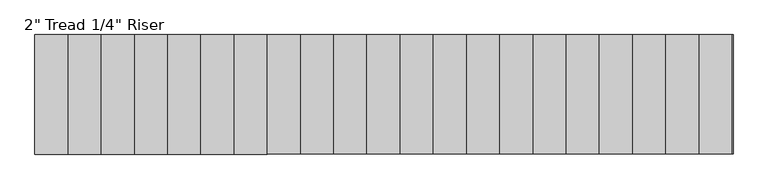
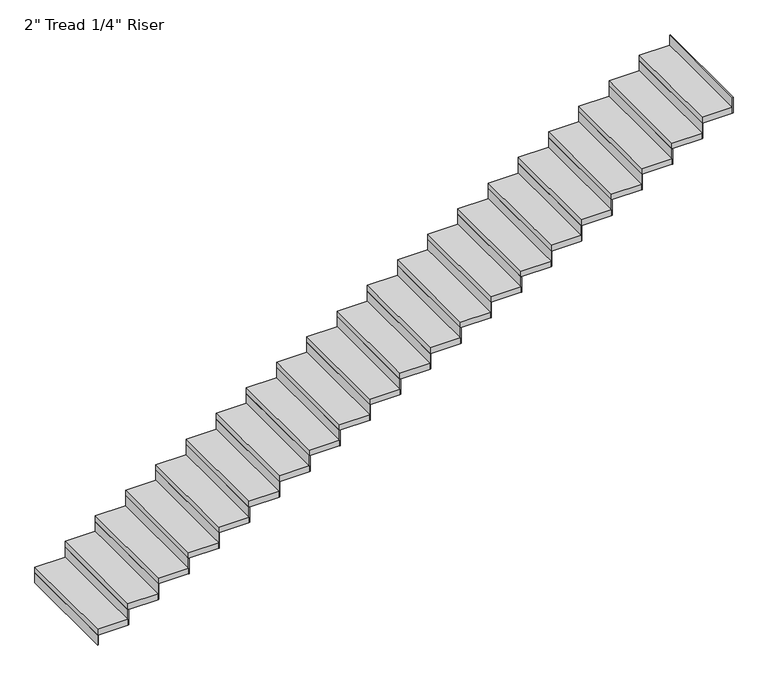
"""IFC4 building model written with IfcOpenShell, lengths in millimetres: stair flight geometry."""

from ifc_helpers import new_model, si_unit, frame, origin, origin_with_axes, place, context, project, spatial, polyline, outline, extrude, source, transform, mapped, element, save


def stair_flight_880be68a(model_context):
    return source(origin(), model_context, "Body", "SweptSolid", [
        extrude(outline(polyline([(-14491.7664794, -35593.481782), (-14498.1164794, -35593.481782), (-14498.1164794, -34679.081782), (-14491.7664794, -34679.081782), (-14491.7664794, -35593.481782)])), origin_with_axes(), (0.0, 0.0, 1.0), 87.7454545),
        extrude(outline(polyline([(-14244.1164794, -34679.081782), (-14244.1164794, -35593.481782), (-14498.1164794, -35593.481782), (-14498.1164794, -34679.081782), (-14244.1164794, -34679.081782)])), frame((0.0, 0.0, 87.7454545), z_axis=(0.0, 0.0, 1.0), x_axis=(1.0, 0.0, 0.0)), (0.0, 0.0, 1.0), 50.8),
        extrude(outline(polyline([(-14237.7664794, -35593.481782), (-14244.1164794, -35593.481782), (-14244.1164794, -34679.081782), (-14237.7664794, -34679.081782), (-14237.7664794, -35593.481782)])), frame((0.0, 0.0, 87.7454545), z_axis=(0.0, 0.0, 1.0), x_axis=(1.0, 0.0, 0.0)), (0.0, 0.0, 1.0), 138.5454545),
        extrude(outline(polyline([(-13990.1164794, -34679.081782), (-13990.1164794, -35593.481782), (-14244.1164794, -35593.481782), (-14244.1164794, -34679.081782), (-13990.1164794, -34679.081782)])), frame((0.0, 0.0, 226.2909091), z_axis=(0.0, 0.0, 1.0), x_axis=(1.0, 0.0, 0.0)), (0.0, 0.0, 1.0), 50.8),
        extrude(outline(polyline([(-13983.7664794, -35593.481782), (-13990.1164794, -35593.481782), (-13990.1164794, -34679.081782), (-13983.7664794, -34679.081782), (-13983.7664794, -35593.481782)])), frame((0.0, 0.0, 226.2909091), z_axis=(0.0, 0.0, 1.0), x_axis=(1.0, 0.0, 0.0)), (0.0, 0.0, 1.0), 138.5454545),
        extrude(outline(polyline([(-13736.1164794, -34679.081782), (-13736.1164794, -35593.481782), (-13990.1164794, -35593.481782), (-13990.1164794, -34679.081782), (-13736.1164794, -34679.081782)])), frame((0.0, 0.0, 364.8363636), z_axis=(0.0, 0.0, 1.0), x_axis=(1.0, 0.0, 0.0)), (0.0, 0.0, 1.0), 50.8),
        extrude(outline(polyline([(-13729.7664794, -35593.481782), (-13736.1164794, -35593.481782), (-13736.1164794, -34679.081782), (-13729.7664794, -34679.081782), (-13729.7664794, -35593.481782)])), frame((0.0, 0.0, 364.8363636), z_axis=(0.0, 0.0, 1.0), x_axis=(1.0, 0.0, 0.0)), (0.0, 0.0, 1.0), 138.5454545),
        extrude(outline(polyline([(-13482.1164794, -34679.081782), (-13482.1164794, -35593.481782), (-13736.1164794, -35593.481782), (-13736.1164794, -34679.081782), (-13482.1164794, -34679.081782)])), frame((0.0, 0.0, 503.3818182), z_axis=(0.0, 0.0, 1.0), x_axis=(1.0, 0.0, 0.0)), (0.0, 0.0, 1.0), 50.8),
        extrude(outline(polyline([(-13475.7664794, -35593.481782), (-13482.1164794, -35593.481782), (-13482.1164794, -34679.081782), (-13475.7664794, -34679.081782), (-13475.7664794, -35593.481782)])), frame((0.0, 0.0, 503.3818182), z_axis=(0.0, 0.0, 1.0), x_axis=(1.0, 0.0, 0.0)), (0.0, 0.0, 1.0), 138.5454545),
        extrude(outline(polyline([(-13228.1164794, -34679.081782), (-13228.1164794, -35593.481782), (-13482.1164794, -35593.481782), (-13482.1164794, -34679.081782), (-13228.1164794, -34679.081782)])), frame((0.0, 0.0, 641.9272727), z_axis=(0.0, 0.0, 1.0), x_axis=(1.0, 0.0, 0.0)), (0.0, 0.0, 1.0), 50.8),
        extrude(outline(polyline([(-13221.7664794, -35593.481782), (-13228.1164794, -35593.481782), (-13228.1164794, -34679.081782), (-13221.7664794, -34679.081782), (-13221.7664794, -35593.481782)])), frame((0.0, 0.0, 641.9272727), z_axis=(0.0, 0.0, 1.0), x_axis=(1.0, 0.0, 0.0)), (0.0, 0.0, 1.0), 138.5454545),
        extrude(outline(polyline([(-12974.1164794, -34679.081782), (-12974.1164794, -35593.481782), (-13228.1164794, -35593.481782), (-13228.1164794, -34679.081782), (-12974.1164794, -34679.081782)])), frame((0.0, 0.0, 780.4727273), z_axis=(0.0, 0.0, 1.0), x_axis=(1.0, 0.0, 0.0)), (0.0, 0.0, 1.0), 50.8),
        extrude(outline(polyline([(-12967.7664794, -35593.481782), (-12974.1164794, -35593.481782), (-12974.1164794, -34679.081782), (-12967.7664794, -34679.081782), (-12967.7664794, -35593.481782)])), frame((0.0, 0.0, 780.4727273), z_axis=(0.0, 0.0, 1.0), x_axis=(1.0, 0.0, 0.0)), (0.0, 0.0, 1.0), 138.5454545),
        extrude(outline(polyline([(-12720.1164794, -34679.081782), (-12720.1164794, -35593.481782), (-12974.1164794, -35593.481782), (-12974.1164794, -34679.081782), (-12720.1164794, -34679.081782)])), frame((0.0, 0.0, 919.0181818), z_axis=(0.0, 0.0, 1.0), x_axis=(1.0, 0.0, 0.0)), (0.0, 0.0, 1.0), 50.8),
        extrude(outline(polyline([(-12713.7664794, -35593.481782), (-12720.1164794, -35593.481782), (-12720.1164794, -34679.081782), (-12713.7664794, -34679.081782), (-12713.7664794, -35593.481782)])), frame((0.0, 0.0, 919.0181818), z_axis=(0.0, 0.0, 1.0), x_axis=(1.0, 0.0, 0.0)), (0.0, 0.0, 1.0), 138.5454545),
        extrude(outline(polyline([(-12466.1164794, -34679.081782), (-12466.1164794, -35593.481782), (-12720.1164794, -35593.481782), (-12720.1164794, -34679.081782), (-12466.1164794, -34679.081782)])), frame((0.0, 0.0, 1057.5636364), z_axis=(0.0, 0.0, 1.0), x_axis=(1.0, 0.0, 0.0)), (0.0, 0.0, 1.0), 50.8),
        extrude(outline(polyline([(-12459.7664794, -35593.481782), (-12466.1164794, -35593.481782), (-12466.1164794, -34679.081782), (-12459.7664794, -34679.081782), (-12459.7664794, -35593.481782)])), frame((0.0, 0.0, 1057.5636364), z_axis=(0.0, 0.0, 1.0), x_axis=(1.0, 0.0, 0.0)), (0.0, 0.0, 1.0), 138.5454545),
        extrude(outline(polyline([(-12212.1164794, -34679.081782), (-12212.1164794, -35593.481782), (-12466.1164794, -35593.481782), (-12466.1164794, -34679.081782), (-12212.1164794, -34679.081782)])), frame((0.0, 0.0, 1196.1090909), z_axis=(0.0, 0.0, 1.0), x_axis=(1.0, 0.0, 0.0)), (0.0, 0.0, 1.0), 50.8),
        extrude(outline(polyline([(-12205.7664794, -35593.481782), (-12212.1164794, -35593.481782), (-12212.1164794, -34679.081782), (-12205.7664794, -34679.081782), (-12205.7664794, -35593.481782)])), frame((0.0, 0.0, 1196.1090909), z_axis=(0.0, 0.0, 1.0), x_axis=(1.0, 0.0, 0.0)), (0.0, 0.0, 1.0), 138.5454545),
        extrude(outline(polyline([(-11958.1164794, -34679.081782), (-11958.1164794, -35593.481782), (-12212.1164794, -35593.481782), (-12212.1164794, -34679.081782), (-11958.1164794, -34679.081782)])), frame((0.0, 0.0, 1334.6545455), z_axis=(0.0, 0.0, 1.0), x_axis=(1.0, 0.0, 0.0)), (0.0, 0.0, 1.0), 50.8),
        extrude(outline(polyline([(-11951.7664794, -35593.481782), (-11958.1164794, -35593.481782), (-11958.1164794, -34679.081782), (-11951.7664794, -34679.081782), (-11951.7664794, -35593.481782)])), frame((0.0, 0.0, 1334.6545455), z_axis=(0.0, 0.0, 1.0), x_axis=(1.0, 0.0, 0.0)), (0.0, 0.0, 1.0), 138.5454545),
        extrude(outline(polyline([(-11704.1164794, -34679.081782), (-11704.1164794, -35593.481782), (-11958.1164794, -35593.481782), (-11958.1164794, -34679.081782), (-11704.1164794, -34679.081782)])), frame((0.0, 0.0, 1473.2), z_axis=(0.0, 0.0, 1.0), x_axis=(1.0, 0.0, 0.0)), (0.0, 0.0, 1.0), 50.8),
        extrude(outline(polyline([(-11697.7664794, -35593.481782), (-11704.1164794, -35593.481782), (-11704.1164794, -34679.081782), (-11697.7664794, -34679.081782), (-11697.7664794, -35593.481782)])), frame((0.0, 0.0, 1473.2), z_axis=(0.0, 0.0, 1.0), x_axis=(1.0, 0.0, 0.0)), (0.0, 0.0, 1.0), 138.5454545),
        extrude(outline(polyline([(-11450.1164794, -34679.081782), (-11450.1164794, -35593.481782), (-11704.1164794, -35593.481782), (-11704.1164794, -34679.081782), (-11450.1164794, -34679.081782)])), frame((0.0, 0.0, 1611.7454545), z_axis=(0.0, 0.0, 1.0), x_axis=(1.0, 0.0, 0.0)), (0.0, 0.0, 1.0), 50.8),
        extrude(outline(polyline([(-11443.7664794, -35593.481782), (-11450.1164794, -35593.481782), (-11450.1164794, -34679.081782), (-11443.7664794, -34679.081782), (-11443.7664794, -35593.481782)])), frame((0.0, 0.0, 1611.7454545), z_axis=(0.0, 0.0, 1.0), x_axis=(1.0, 0.0, 0.0)), (0.0, 0.0, 1.0), 138.5454545),
        extrude(outline(polyline([(-11196.1164794, -34679.081782), (-11196.1164794, -35593.481782), (-11450.1164794, -35593.481782), (-11450.1164794, -34679.081782), (-11196.1164794, -34679.081782)])), frame((0.0, 0.0, 1750.2909091), z_axis=(0.0, 0.0, 1.0), x_axis=(1.0, 0.0, 0.0)), (0.0, 0.0, 1.0), 50.8),
        extrude(outline(polyline([(-11189.7664794, -35593.481782), (-11196.1164794, -35593.481782), (-11196.1164794, -34679.081782), (-11189.7664794, -34679.081782), (-11189.7664794, -35593.481782)])), frame((0.0, 0.0, 1750.2909091), z_axis=(0.0, 0.0, 1.0), x_axis=(1.0, 0.0, 0.0)), (0.0, 0.0, 1.0), 138.5454545),
        extrude(outline(polyline([(-10942.1164794, -34679.081782), (-10942.1164794, -35593.481782), (-11196.1164794, -35593.481782), (-11196.1164794, -34679.081782), (-10942.1164794, -34679.081782)])), frame((0.0, 0.0, 1888.8363636), z_axis=(0.0, 0.0, 1.0), x_axis=(1.0, 0.0, 0.0)), (0.0, 0.0, 1.0), 50.8),
        extrude(outline(polyline([(-10935.7664794, -35593.481782), (-10942.1164794, -35593.481782), (-10942.1164794, -34679.081782), (-10935.7664794, -34679.081782), (-10935.7664794, -35593.481782)])), frame((0.0, 0.0, 1888.8363636), z_axis=(0.0, 0.0, 1.0), x_axis=(1.0, 0.0, 0.0)), (0.0, 0.0, 1.0), 138.5454545),
        extrude(outline(polyline([(-10688.1164794, -34679.081782), (-10688.1164794, -35593.481782), (-10942.1164794, -35593.481782), (-10942.1164794, -34679.081782), (-10688.1164794, -34679.081782)])), frame((0.0, 0.0, 2027.3818182), z_axis=(0.0, 0.0, 1.0), x_axis=(1.0, 0.0, 0.0)), (0.0, 0.0, 1.0), 50.8),
        extrude(outline(polyline([(-10681.7664794, -35593.481782), (-10688.1164794, -35593.481782), (-10688.1164794, -34679.081782), (-10681.7664794, -34679.081782), (-10681.7664794, -35593.481782)])), frame((0.0, 0.0, 2027.3818182), z_axis=(0.0, 0.0, 1.0), x_axis=(1.0, 0.0, 0.0)), (0.0, 0.0, 1.0), 138.5454545),
        extrude(outline(polyline([(-10434.1164794, -34679.081782), (-10434.1164794, -35593.481782), (-10688.1164794, -35593.481782), (-10688.1164794, -34679.081782), (-10434.1164794, -34679.081782)])), frame((0.0, 0.0, 2165.9272727), z_axis=(0.0, 0.0, 1.0), x_axis=(1.0, 0.0, 0.0)), (0.0, 0.0, 1.0), 50.8),
        extrude(outline(polyline([(-10427.7664794, -35593.481782), (-10434.1164794, -35593.481782), (-10434.1164794, -34679.081782), (-10427.7664794, -34679.081782), (-10427.7664794, -35593.481782)])), frame((0.0, 0.0, 2165.9272727), z_axis=(0.0, 0.0, 1.0), x_axis=(1.0, 0.0, 0.0)), (0.0, 0.0, 1.0), 138.5454545),
        extrude(outline(polyline([(-10180.1164794, -34679.081782), (-10180.1164794, -35593.481782), (-10434.1164794, -35593.481782), (-10434.1164794, -34679.081782), (-10180.1164794, -34679.081782)])), frame((0.0, 0.0, 2304.4727273), z_axis=(0.0, 0.0, 1.0), x_axis=(1.0, 0.0, 0.0)), (0.0, 0.0, 1.0), 50.8),
        extrude(outline(polyline([(-10173.7664794, -35593.481782), (-10180.1164794, -35593.481782), (-10180.1164794, -34679.081782), (-10173.7664794, -34679.081782), (-10173.7664794, -35593.481782)])), frame((0.0, 0.0, 2304.4727273), z_axis=(0.0, 0.0, 1.0), x_axis=(1.0, 0.0, 0.0)), (0.0, 0.0, 1.0), 138.5454545),
        extrude(outline(polyline([(-9926.1164794, -34679.081782), (-9926.1164794, -35593.481782), (-10180.1164794, -35593.481782), (-10180.1164794, -34679.081782), (-9926.1164794, -34679.081782)])), frame((0.0, 0.0, 2443.0181818), z_axis=(0.0, 0.0, 1.0), x_axis=(1.0, 0.0, 0.0)), (0.0, 0.0, 1.0), 50.8),
        extrude(outline(polyline([(-9919.7664794, -35593.481782), (-9926.1164794, -35593.481782), (-9926.1164794, -34679.081782), (-9919.7664794, -34679.081782), (-9919.7664794, -35593.481782)])), frame((0.0, 0.0, 2443.0181818), z_axis=(0.0, 0.0, 1.0), x_axis=(1.0, 0.0, 0.0)), (0.0, 0.0, 1.0), 138.5454545),
        extrude(outline(polyline([(-9672.1164794, -34679.081782), (-9672.1164794, -35593.481782), (-9926.1164794, -35593.481782), (-9926.1164794, -34679.081782), (-9672.1164794, -34679.081782)])), frame((0.0, 0.0, 2581.5636364), z_axis=(0.0, 0.0, 1.0), x_axis=(1.0, 0.0, 0.0)), (0.0, 0.0, 1.0), 50.8),
        extrude(outline(polyline([(-9665.7664794, -35593.481782), (-9672.1164794, -35593.481782), (-9672.1164794, -34679.081782), (-9665.7664794, -34679.081782), (-9665.7664794, -35593.481782)])), frame((0.0, 0.0, 2581.5636364), z_axis=(0.0, 0.0, 1.0), x_axis=(1.0, 0.0, 0.0)), (0.0, 0.0, 1.0), 138.5454545),
        extrude(outline(polyline([(-9418.1164794, -34679.081782), (-9418.1164794, -35593.481782), (-9672.1164794, -35593.481782), (-9672.1164794, -34679.081782), (-9418.1164794, -34679.081782)])), frame((0.0, 0.0, 2720.1090909), z_axis=(0.0, 0.0, 1.0), x_axis=(1.0, 0.0, 0.0)), (0.0, 0.0, 1.0), 50.8),
        extrude(outline(polyline([(-9411.7664794, -35593.481782), (-9418.1164794, -35593.481782), (-9418.1164794, -34679.081782), (-9411.7664794, -34679.081782), (-9411.7664794, -35593.481782)])), frame((0.0, 0.0, 2720.1090909), z_axis=(0.0, 0.0, 1.0), x_axis=(1.0, 0.0, 0.0)), (0.0, 0.0, 1.0), 138.5454545),
        extrude(outline(polyline([(-9157.7664794, -35593.481782), (-9164.1164794, -35593.481782), (-9164.1164794, -34679.081782), (-9157.7664794, -34679.081782), (-9157.7664794, -35593.481782)])), frame((0.0, 0.0, 2858.6545455), z_axis=(0.0, 0.0, 1.0), x_axis=(1.0, 0.0, 0.0)), (0.0, 0.0, 1.0), 138.5454545),
        extrude(outline(polyline([(-9164.1164794, -34679.081782), (-9164.1164794, -35593.481782), (-9418.1164794, -35593.481782), (-9418.1164794, -34679.081782), (-9164.1164794, -34679.081782)])), frame((0.0, 0.0, 2858.6545455), z_axis=(0.0, 0.0, 1.0), x_axis=(1.0, 0.0, 0.0)), (0.0, 0.0, 1.0), 50.8),
    ])


if __name__ == "__main__":
    model = new_model("IFC4")
    model_context = context("Model", 3, world=origin())
    ifc_project = project(units=[si_unit("LENGTHUNIT", "METRE", prefix="MILLI")], contexts=[model_context])
    site = spatial("IfcSite", under=ifc_project)
    building = spatial("IfcBuilding", under=site)
    placement = place(None, origin())
    stair_flight_shape = stair_flight_880be68a(model_context)
    element("IfcStairFlight", 1, ObjectType="2\" Tread 1/4\" Riser", at=placement, inside=building, context=model_context, shape_type="MappedRepresentation", body=[
        mapped(stair_flight_shape, transform((0.0, 0.0, 0.0), x_axis=(1.0, 0.0, 0.0), y_axis=(0.0, 1.0, 0.0), z_axis=(0.0, 0.0, 1.0))),
    ])
    save(model, "model.ifc")
